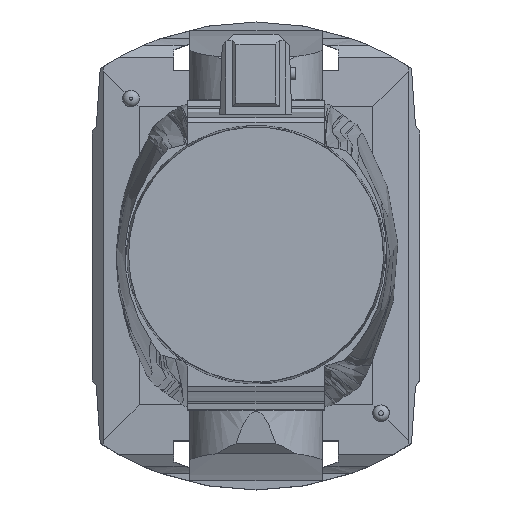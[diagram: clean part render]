
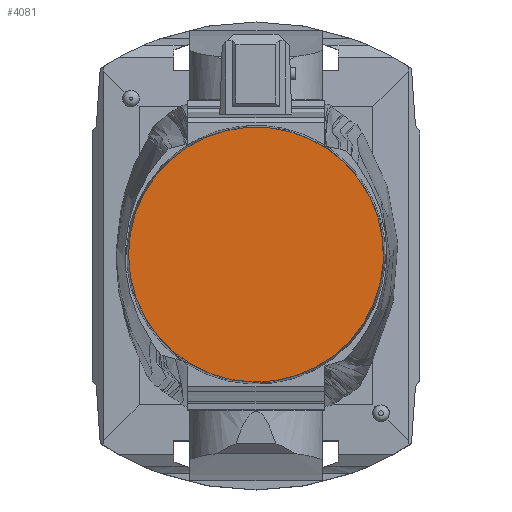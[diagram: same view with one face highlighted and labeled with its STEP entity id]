
A CAD part, top view. The second image highlights one B-rep face of the part: STEP entity #4081.
In plain terms, the highlighted planar face has unit normal (0, 0, 1).
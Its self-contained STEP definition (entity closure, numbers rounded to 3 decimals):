
#133=PLANE('',#4384);
#1103=CIRCLE('',#4379,130.469);
#2067=ORIENTED_EDGE('',*,*,#2797,.F.);
#2797=EDGE_CURVE('',#3250,#3250,#1103,.T.);
#3250=VERTEX_POINT('',#8944);
#3565=EDGE_LOOP('',(#2067));
#3814=FACE_BOUND('',#3565,.T.);
#4081=ADVANCED_FACE('',(#3814),#133,.F.);
#4379=AXIS2_PLACEMENT_3D('',#8943,#5086,#5087);
#4384=AXIS2_PLACEMENT_3D('',#8949,#5096,#5097);
#5086=DIRECTION('',(0.,0.,-1.));
#5087=DIRECTION('',(-1.,0.,0.));
#5096=DIRECTION('',(0.,0.,-1.));
#5097=DIRECTION('',(-1.,0.,0.));
#8943=CARTESIAN_POINT('',(0.,0.,869.161));
#8944=CARTESIAN_POINT('',(-130.469,0.,869.161));
#8949=CARTESIAN_POINT('',(0.,0.,869.161));
